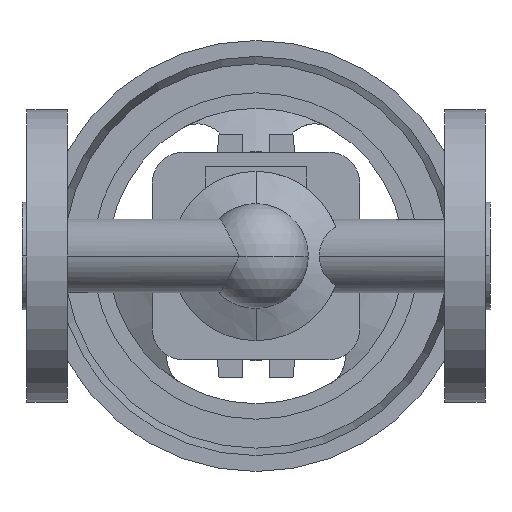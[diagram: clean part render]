
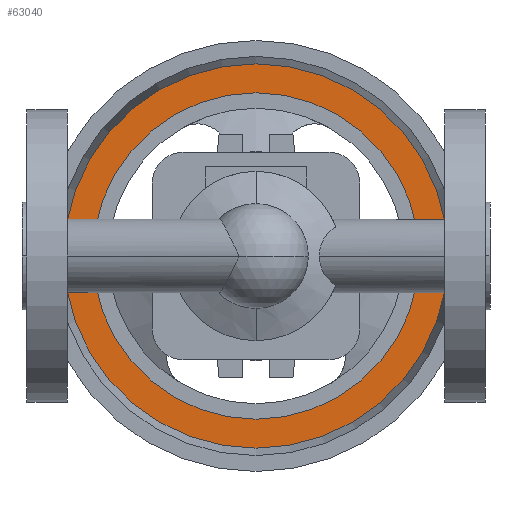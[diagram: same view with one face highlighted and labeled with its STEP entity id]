
A CAD part, front view. The second image highlights one B-rep face of the part: STEP entity #63040.
In plain terms, the highlighted planar face has unit normal (0, -1, 0).
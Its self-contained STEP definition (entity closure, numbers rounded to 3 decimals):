
#62490=CARTESIAN_POINT('',(13.588,237.,0.));
#62500=VERTEX_POINT('',#62490);
#62530=CARTESIAN_POINT('',(76.,237.,0.));
#62540=DIRECTION('',(0.,1.,0.));
#62550=DIRECTION('',(-1.,0.,0.));
#62560=AXIS2_PLACEMENT_3D('',#62530,#62540,#62550);
#62570=CIRCLE('',#62560,62.412);
#62580=CARTESIAN_POINT('',(138.412,237.,0.));
#62590=VERTEX_POINT('',#62580);
#62600=EDGE_CURVE('',#62590,#62500,#62570,.T.);
#62790=CARTESIAN_POINT('',(18.294,237.,0.));
#62800=DIRECTION('',(0.,-1.,0.));
#62810=DIRECTION('',(1.,0.,0.));
#62820=AXIS2_PLACEMENT_3D('',#62790,#62800,#62810);
#62830=PLANE('',#62820);
#62840=ORIENTED_EDGE('',*,*,#62600,.F.);
#62850=EDGE_CURVE('',#62500,#62590,#62570,.T.);
#62860=ORIENTED_EDGE('',*,*,#62850,.F.);
#62870=EDGE_LOOP('',(#62860,#62840));
#62880=FACE_OUTER_BOUND('',#62870,.T.);
#62890=CARTESIAN_POINT('',(76.,237.,0.));
#62900=DIRECTION('',(0.,1.,0.));
#62910=DIRECTION('',(-1.,0.,0.));
#62920=AXIS2_PLACEMENT_3D('',#62890,#62900,#62910);
#62930=CIRCLE('',#62920,53.);
#62940=CARTESIAN_POINT('',(23.,237.,0.));
#62950=VERTEX_POINT('',#62940);
#62960=CARTESIAN_POINT('',(129.,237.,0.));
#62970=VERTEX_POINT('',#62960);
#62980=EDGE_CURVE('',#62950,#62970,#62930,.T.);
#62990=ORIENTED_EDGE('',*,*,#62980,.T.);
#63000=EDGE_CURVE('',#62970,#62950,#62930,.T.);
#63010=ORIENTED_EDGE('',*,*,#63000,.T.);
#63020=EDGE_LOOP('',(#63010,#62990));
#63030=FACE_BOUND('',#63020,.T.);
#63040=ADVANCED_FACE('',(#62880,#63030),#62830,.T.);
